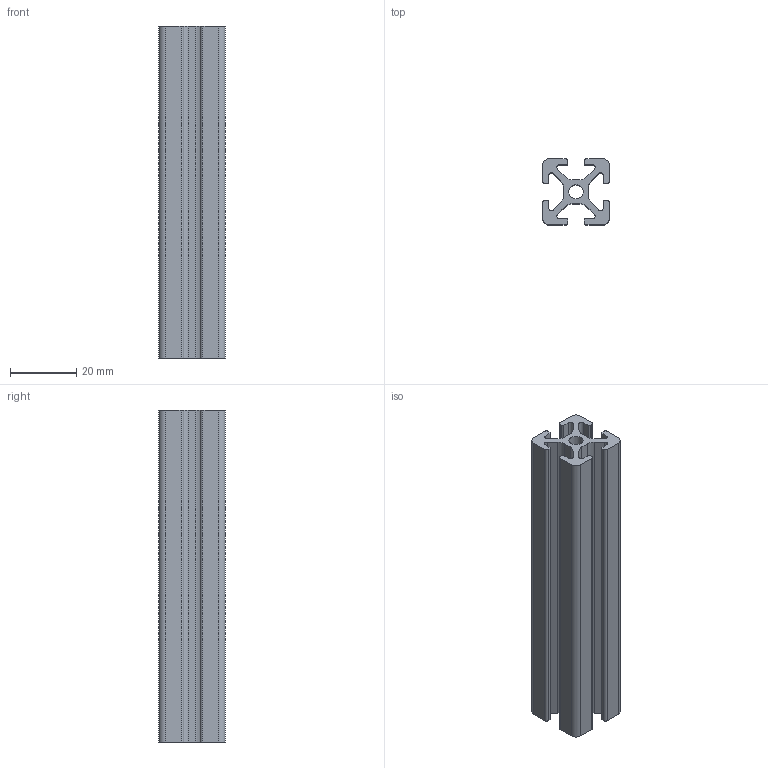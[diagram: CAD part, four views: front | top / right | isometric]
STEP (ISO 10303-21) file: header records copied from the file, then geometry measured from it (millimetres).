
FILE_DESCRIPTION(/* description */ (''),/* implementation_level */ '2;1');
FILE_NAME(/* name */ 'D:\Kereskedelem\Dropbox\Kereskedelem\Katalogusok\IPT katalógusok\Profil CAD 3D\IPT I 20x20 - 100 mm.stp',/* time_stamp */ '2015-01-20T11:01:11+01:00',/* author */ ('MP'),/* organization */ ('IPT'),/* preprocessor_version */ 'ST-DEVELOPER v15.2',/* originating_system */ 'Autodesk Inventor 2014',/* authorisation */ '');
FILE_SCHEMA (('AUTOMOTIVE_DESIGN { 1 0 10303 214 3 1 1 }'));
Length unit declared in the file: millimetre
Products named in the file (1): IPT I 20x20 - 100 mm
Bounding box: 20 x 20 x 100 mm (x, y, z)
Volume: 18385.2 mm3; surface area: 17279.2 mm2
Topology: 1 solids, 1 shells, 75 faces, 219 edges, 146 vertices
Faces by surface type: plane 38, cylinder 37
Full cylindrical faces by diameter (mm): 4.3 x1
Entity records: 2530 total; most frequent: DIRECTION 444, CARTESIAN_POINT 440, ORIENTED_EDGE 436, EDGE_CURVE 218, AXIS2_PLACEMENT_3D 150, VERTEX_POINT 146, LINE 144, VECTOR 144
